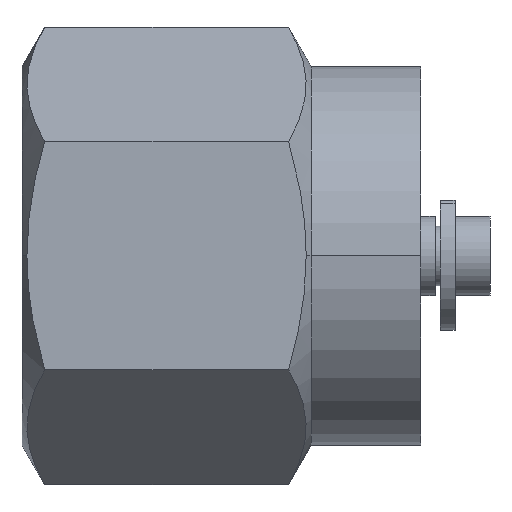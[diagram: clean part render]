
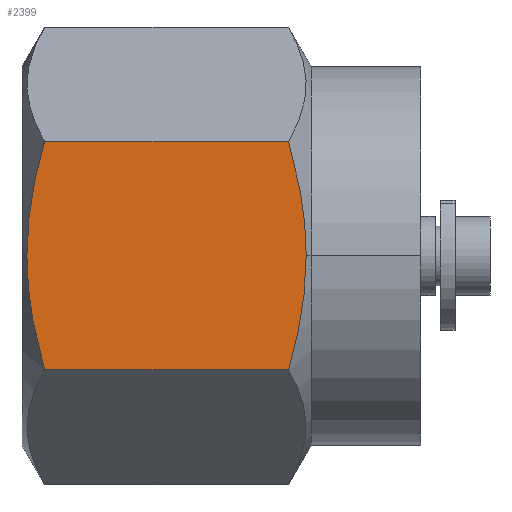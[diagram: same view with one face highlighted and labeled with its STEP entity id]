
A CAD part, top view. The second image highlights one B-rep face of the part: STEP entity #2399.
In plain terms, the highlighted planar face has unit normal (0, 0, 1).
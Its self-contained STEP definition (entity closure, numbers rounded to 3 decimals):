
#3 = CARTESIAN_POINT ( 'NONE',  ( 0.098, 0., 3.97 ) ) ;
#4 = CARTESIAN_POINT ( 'NONE',  ( 0.098, -0.388, 3.97 ) ) ;
#7 = CARTESIAN_POINT ( 'NONE',  ( 0.453, -2.292, 3.97 ) ) ;
#9 = B_SPLINE_CURVE_WITH_KNOTS ( 'NONE', 3,
 ( #44, #43, #42, #41, #40, #39 ),
 .UNSPECIFIED., .F., .F.,
 ( 4, 2, 4 ),
 ( 0.016, 0.018, 0.019 ),
 .UNSPECIFIED. ) ;
#10 = B_SPLINE_CURVE_WITH_KNOTS ( 'NONE', 3,
 ( #23, #22, #12, #11, #4, #3 ),
 .UNSPECIFIED., .F., .F.,
 ( 4, 2, 4 ),
 ( 0.004, 0.005, 0.007 ),
 .UNSPECIFIED. ) ;
#11 = CARTESIAN_POINT ( 'NONE',  ( 0.132, -0.773, 3.97 ) ) ;
#12 = CARTESIAN_POINT ( 'NONE',  ( 0.255, -1.537, 3.97 ) ) ;
#13 = CARTESIAN_POINT ( 'NONE',  ( 5.347, -2.292, 3.97 ) ) ;
#22 = CARTESIAN_POINT ( 'NONE',  ( 0.345, -1.919, 3.97 ) ) ;
#23 = CARTESIAN_POINT ( 'NONE',  ( 0.453, -2.292, 3.97 ) ) ;
#35 = CARTESIAN_POINT ( 'NONE',  ( 5.702, 0., 3.97 ) ) ;
#39 = CARTESIAN_POINT ( 'NONE',  ( 5.347, -2.292, 3.97 ) ) ;
#40 = CARTESIAN_POINT ( 'NONE',  ( 5.455, -1.919, 3.97 ) ) ;
#41 = CARTESIAN_POINT ( 'NONE',  ( 5.545, -1.537, 3.97 ) ) ;
#42 = CARTESIAN_POINT ( 'NONE',  ( 5.669, -0.772, 3.97 ) ) ;
#43 = CARTESIAN_POINT ( 'NONE',  ( 5.702, -0.388, 3.97 ) ) ;
#44 = CARTESIAN_POINT ( 'NONE',  ( 5.702, 0., 3.97 ) ) ;
#254 = CARTESIAN_POINT ( 'NONE',  ( 0.098, 0., 3.97 ) ) ;
#1170 = B_SPLINE_CURVE_WITH_KNOTS ( 'NONE', 3,
 ( #1196, #1173, #1172, #1201, #1200, #1199 ),
 .UNSPECIFIED., .F., .F.,
 ( 4, 2, 4 ),
 ( 0.007, 0.008, 0.009 ),
 .UNSPECIFIED. ) ;
#1172 = CARTESIAN_POINT ( 'NONE',  ( 0.132, 0.781, 3.97 ) ) ;
#1173 = CARTESIAN_POINT ( 'NONE',  ( 0.098, 0.388, 3.97 ) ) ;
#1196 = CARTESIAN_POINT ( 'NONE',  ( 0.098, 0., 3.97 ) ) ;
#1199 = CARTESIAN_POINT ( 'NONE',  ( 0.453, 2.292, 3.97 ) ) ;
#1200 = CARTESIAN_POINT ( 'NONE',  ( 0.346, 1.921, 3.97 ) ) ;
#1201 = CARTESIAN_POINT ( 'NONE',  ( 0.257, 1.546, 3.97 ) ) ;
#1289 = CARTESIAN_POINT ( 'NONE',  ( 5.347, 2.292, 3.97 ) ) ;
#1980 = VERTEX_POINT ( 'NONE', #35 ) ;
#1982 = EDGE_CURVE ( 'NONE', #1980, #1983, #9, .T. ) ;
#1983 = VERTEX_POINT ( 'NONE', #13 ) ;
#1991 = VERTEX_POINT ( 'NONE', #7 ) ;
#1993 = EDGE_CURVE ( 'NONE', #1991, #2062, #10, .T. ) ;
#2062 = VERTEX_POINT ( 'NONE', #254 ) ;
#2361 = ORIENTED_EDGE ( 'NONE', *, *, #2362, .F. ) ;
#2362 = EDGE_CURVE ( 'NONE', #2062, #2425, #1170, .T. ) ;
#2394 = EDGE_CURVE ( 'NONE', #2479, #1980, #2984, .T. ) ;
#2395 = ORIENTED_EDGE ( 'NONE', *, *, #1982, .F. ) ;
#2396 = ORIENTED_EDGE ( 'NONE', *, *, #2394, .F. ) ;
#2399 = ADVANCED_FACE ( 'NONE', ( #2987 ), #2954, .F. ) ;
#2400 = EDGE_LOOP ( 'NONE', ( #2403, #2404, #2395, #2396, #2401, #2361 ) ) ;
#2401 = ORIENTED_EDGE ( 'NONE', *, *, #2414, .T. ) ;
#2402 = EDGE_CURVE ( 'NONE', #1983, #1991, #2957, .T. ) ;
#2403 = ORIENTED_EDGE ( 'NONE', *, *, #1993, .F. ) ;
#2404 = ORIENTED_EDGE ( 'NONE', *, *, #2402, .F. ) ;
#2414 = EDGE_CURVE ( 'NONE', #2479, #2425, #3026, .T. ) ;
#2425 = VERTEX_POINT ( 'NONE', #2911 ) ;
#2479 = VERTEX_POINT ( 'NONE', #1289 ) ;
#2911 = CARTESIAN_POINT ( 'NONE',  ( 0.453, 2.292, 3.97 ) ) ;
#2942 = CARTESIAN_POINT ( 'NONE',  ( 5.702, 0., 3.97 ) ) ;
#2943 = CARTESIAN_POINT ( 'NONE',  ( 5.702, 0.388, 3.97 ) ) ;
#2944 = CARTESIAN_POINT ( 'NONE',  ( 5.668, 0.781, 3.97 ) ) ;
#2945 = CARTESIAN_POINT ( 'NONE',  ( 5.543, 1.546, 3.97 ) ) ;
#2954 = PLANE ( 'NONE',  #2955 ) ;
#2955 = AXIS2_PLACEMENT_3D ( 'NONE', #2960, #2959, #2958 ) ;
#2957 = LINE ( 'NONE', #2963, #2962 ) ;
#2958 = DIRECTION ( 'NONE',  ( 0., 1., 0. ) ) ;
#2959 = DIRECTION ( 'NONE',  ( 0., 0., -1. ) ) ;
#2960 = CARTESIAN_POINT ( 'NONE',  ( 8., 2.292, 3.97 ) ) ;
#2961 = DIRECTION ( 'NONE',  ( -1., 0., 0. ) ) ;
#2962 = VECTOR ( 'NONE', #2961, 1000. ) ;
#2963 = CARTESIAN_POINT ( 'NONE',  ( 8., -2.292, 3.97 ) ) ;
#2984 = B_SPLINE_CURVE_WITH_KNOTS ( 'NONE', 3,
 ( #2986, #2985, #2945, #2944, #2943, #2942 ),
 .UNSPECIFIED., .F., .F.,
 ( 4, 2, 4 ),
 ( 0.014, 0.015, 0.016 ),
 .UNSPECIFIED. ) ;
#2985 = CARTESIAN_POINT ( 'NONE',  ( 5.454, 1.921, 3.97 ) ) ;
#2986 = CARTESIAN_POINT ( 'NONE',  ( 5.347, 2.292, 3.97 ) ) ;
#2987 = FACE_OUTER_BOUND ( 'NONE', #2400, .T. ) ;
#3024 = DIRECTION ( 'NONE',  ( -1., 0., 0. ) ) ;
#3025 = CARTESIAN_POINT ( 'NONE',  ( 8., 2.292, 3.97 ) ) ;
#3026 = LINE ( 'NONE', #3025, #3029 ) ;
#3029 = VECTOR ( 'NONE', #3024, 1000. ) ;
